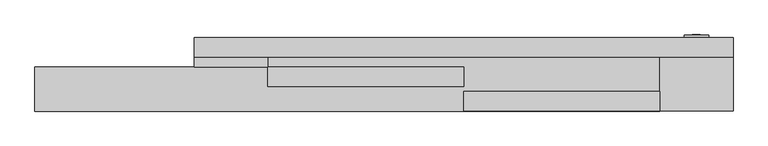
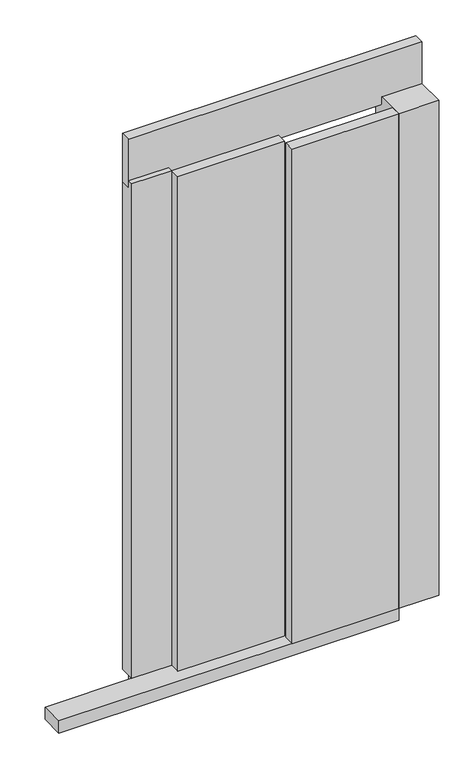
"""IFC4 building model written with IfcOpenShell, lengths in millimetres: proxy geometry, Porta do elevador : Porta do elevador."""

from ifc_helpers import new_model, si_unit, point, frame, frame_2d, origin, origin_with_axes, place, context, project, spatial, polyline, circle_curve, trimmed, segment, composite_curve, outline, extrude, source, transform, mapped, element, save


def specialty_equipment_77dfa124(model_context):
    return source(origin(), model_context, "Body", "SweptSolid", [
        extrude(outline(composite_curve([segment(trimmed(circle_curve(frame_2d((1138.68, 600.0)), 8.23), [point((1138.68, 591.77))], [point((1138.68, 608.23))], False, "CARTESIAN"), True, "CONTINUOUS"), segment(trimmed(circle_curve(frame_2d((1138.68, 600.0)), 8.23), [point((1138.68, 608.23))], [point((1138.68, 591.77))], False, "CARTESIAN"), True, "CONTINUOUS")], self_intersect=False)), frame((0.0, -35.0, 0.0), z_axis=(0.0, 1.0, 0.0), x_axis=(0.0, 0.0, 1.0)), (0.0, 0.0, 1.0), 6.0),
        extrude(outline(composite_curve([segment(trimmed(circle_curve(frame_2d((1161.32, 600.0)), 8.23), [point((1161.32, 591.77))], [point((1161.32, 608.23))], False, "CARTESIAN"), True, "CONTINUOUS"), segment(trimmed(circle_curve(frame_2d((1161.32, 600.0)), 8.23), [point((1161.32, 608.23))], [point((1161.32, 591.77))], False, "CARTESIAN"), True, "CONTINUOUS")], self_intersect=False)), frame((0.0, -35.0, 0.0), z_axis=(0.0, 1.0, 0.0), x_axis=(0.0, 0.0, 1.0)), (0.0, 0.0, 1.0), 6.0),
        extrude(outline(polyline([(625.0, -30.0), (625.0, -35.0), (575.0, -35.0), (575.0, -30.0), (625.0, -30.0)])), frame((0.0, 0.0, 1100.0), z_axis=(0.0, 0.0, 1.0), x_axis=(1.0, 0.0, 0.0)), (0.0, 0.0, 1.0), 100.0),
        extrude(outline(polyline([(-275.0, -135.0), (-275.0, -95.0), (125.0, -95.0), (125.0, -135.0), (-275.0, -135.0)])), origin_with_axes(), (0.0, 0.0, 1.0), 1960.0),
        extrude(outline(polyline([(525.0, -145.0), (525.0, -185.0), (125.0, -185.0), (125.0, -145.0), (525.0, -145.0)])), origin_with_axes(), (0.0, 0.0, 1.0), 1960.0),
        extrude(outline(polyline([(-185.0, 0.0), (-185.0, 1960.0), (-75.0, 1960.0), (-75.0, 1930.0), (-35.0, 1930.0), (-35.0, 0.0), (-185.0, 0.0)])), frame((525.0, 0.0, 0.0), z_axis=(1.0, 0.0, 0.0), x_axis=(0.0, 1.0, 0.0)), (0.0, 0.0, 1.0), 150.0),
        extrude(outline(polyline([(-95.0, 0.0), (-95.0, 1960.0), (-75.0, 1960.0), (-75.0, 1930.0), (-35.0, 1930.0), (-35.0, 0.0), (-95.0, 0.0)])), frame((-425.0, 0.0, 0.0), z_axis=(1.0, 0.0, 0.0), x_axis=(0.0, 1.0, 0.0)), (0.0, 0.0, 1.0), 150.0),
        extrude(outline(polyline([(675.0, -35.0), (675.0, -75.0), (-425.0, -75.0), (-425.0, -35.0), (675.0, -35.0)])), frame((0.0, 0.0, 1930.0), z_axis=(0.0, 0.0, 1.0), x_axis=(1.0, 0.0, 0.0)), (0.0, 0.0, 1.0), 195.0),
        extrude(outline(polyline([(-750.0, -95.0), (-425.0, -95.0), (-425.0, -75.0), (525.0, -75.0), (525.0, -185.0), (-750.0, -185.0), (-750.0, -95.0)])), frame((0.0, 0.0, -48.0), z_axis=(0.0, 0.0, 1.0), x_axis=(1.0, 0.0, 0.0)), (0.0, 0.0, 1.0), 48.0),
    ])


if __name__ == "__main__":
    model = new_model("IFC4")
    model_context = context("Model", 3, world=origin())
    ifc_project = project(units=[si_unit("LENGTHUNIT", "METRE", prefix="MILLI")], contexts=[model_context])
    site = spatial("IfcSite", under=ifc_project)
    building = spatial("IfcBuilding", under=site)
    placement = place(None, origin())
    specialty_equipment_shape = specialty_equipment_77dfa124(model_context)
    element("IfcBuildingElementProxy", 1, Name="Porta do elevador : Porta do elevador", ObjectType="Porta do elevador : Porta do elevador", at=placement, inside=building, context=model_context, shape_type="MappedRepresentation", body=[
        mapped(specialty_equipment_shape, transform((0.0, 0.0, 0.0), x_axis=(1.0, 0.0, 0.0), y_axis=(0.0, 1.0, 0.0), z_axis=(0.0, 0.0, 1.0))),
    ])
    save(model, "model.ifc")
